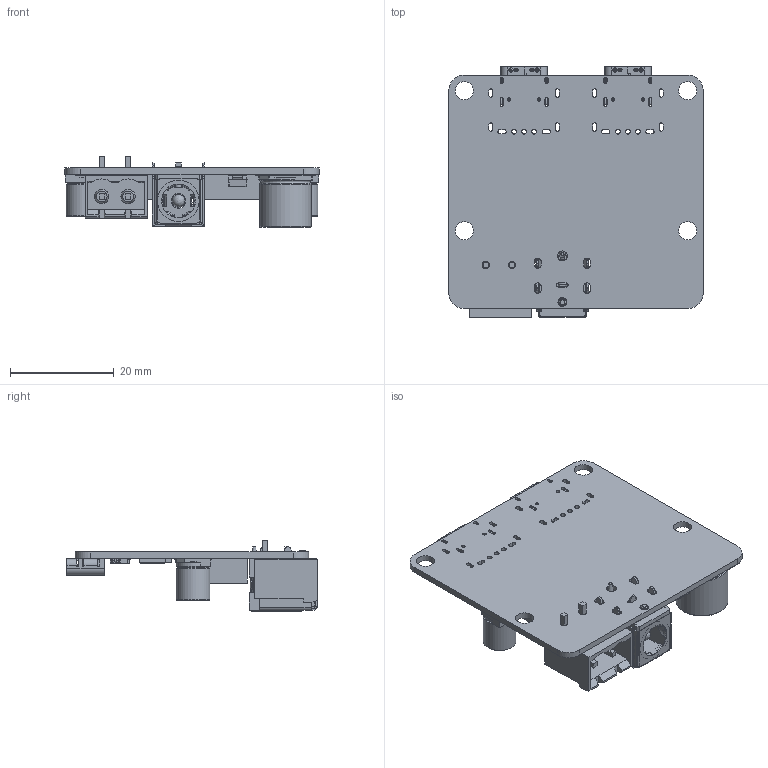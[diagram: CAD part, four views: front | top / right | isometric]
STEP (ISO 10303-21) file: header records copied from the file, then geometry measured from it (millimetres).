
FILE_DESCRIPTION(/* description */ (''),/* implementation_level */ '2;1');
FILE_NAME(/* name */ 'CG-CCJPD30x2_Model3D_JWV1.step',/* time_stamp */ '2023-03-27T13:45:28-04:00',/* author */ (''),/* organization */ (''),/* preprocessor_version */ 'ST-DEVELOPER v19.2',/* originating_system */ 'Autodesk Translation Framework v11.17.0.187',/* authorisation */ '');
FILE_SCHEMA (('AUTOMOTIVE_DESIGN { 1 0 10303 214 3 1 1 }'));
Products named in the file (68): (Unsaved); Board; Open CASCADE STEP translator 6.8 1.1.1; Component; Component (82); Component (15); Component (16); User_Library-SC70-6_(1); Component (9); User_Library-ALU-G; User_Library-ALU-G_Pins_1; User_Library-ALU-G_Fuss_1; User_Library-ALU-G_K_X_F6rper_1; User_Library-ALU-G_Beschriftung_1; USB-C Connector 2; Component (44); Component (45); Component (46); Component (47); User_Library-TDFN-8-EP_3x3mm; User_Library-TDFN-8-EP_3x3mm (1); User_Library-TDFN-8-EP_3x3mm (2); User_Library-TDFN-8-EP_3x3mm (3); User_Library-TDFN-8-EP_3x3mm (4); User_Library-TDFN-8-EP_3x3mm (5); User_Library-TDFN-8-EP_3x3mm (6); Component (49); Component (50); Component (51); 6428412240; Extruded; Component (53); Component (54); User_Library-CC0607; USB-A Connector 2; USB-A Connector 1; USB-C Connector 1; User_Library-USB_-_C_m; Component (58); Component (59)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
Assembly tree (100 placements, depth 4):
  (Unsaved)
    Board
      Open CASCADE STEP translator 6.8 1.1.1
    Component
      User_Library-SC70-6_(1)
    Component (82)
      User_Library-SC70-6_(1)
    Component (15)
      User_Library-SC70-6_(1)
    Component (16)
      User_Library-SC70-6_(1)
    Component (9)
      User_Library-ALU-G
        User_Library-ALU-G_Pins_1
        User_Library-ALU-G_Fuss_1
        User_Library-ALU-G_K_X_F6rper_1
        User_Library-ALU-G_Beschriftung_1
    USB-C Connector 2
      User_Library-USB_-_C_m
    Component (44)
      User_Library-TDFN-8-EP_3x3mm
      User_Library-TDFN-8-EP_3x3mm (1)
      User_Library-TDFN-8-EP_3x3mm (2)
      User_Library-TDFN-8-EP_3x3mm (3)
      User_Library-TDFN-8-EP_3x3mm (4)
      User_Library-TDFN-8-EP_3x3mm (5)
      User_Library-TDFN-8-EP_3x3mm (6)
    Component (45)
      User_Library-TDFN-8-EP_3x3mm
      User_Library-TDFN-8-EP_3x3mm (1)
      User_Library-TDFN-8-EP_3x3mm (2)
      User_Library-TDFN-8-EP_3x3mm (3)
      User_Library-TDFN-8-EP_3x3mm (4)
      User_Library-TDFN-8-EP_3x3mm (5)
      User_Library-TDFN-8-EP_3x3mm (6)
    Component (46)
      User_Library-TDFN-8-EP_3x3mm
      User_Library-TDFN-8-EP_3x3mm (1)
      User_Library-TDFN-8-EP_3x3mm (2)
      User_Library-TDFN-8-EP_3x3mm (3)
      User_Library-TDFN-8-EP_3x3mm (4)
      User_Library-TDFN-8-EP_3x3mm (5)
      User_Library-TDFN-8-EP_3x3mm (6)
    Component (47)
      User_Library-TDFN-8-EP_3x3mm
      User_Library-TDFN-8-EP_3x3mm (1)
      User_Library-TDFN-8-EP_3x3mm (2)
      User_Library-TDFN-8-EP_3x3mm (3)
      User_Library-TDFN-8-EP_3x3mm (4)
      User_Library-TDFN-8-EP_3x3mm (5)
      User_Library-TDFN-8-EP_3x3mm (6)
    Component (49)
      WL-SMCW_0603_LED
        base  x2
    Component (50)
      6428412240
        Extruded
    Component (51)
      6428412240
        Extruded
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Bounding box: 49 x 48.23 x 13.55 mm (x, y, z)
Volume: 7099.2 mm3; surface area: 11944 mm2
Topology: 68 solids, 82 shells, 4608 faces, 12595 edges, 8137 vertices
Faces by surface type: plane 3190, cylinder 976, bspline 192, torus 103, cone 82, sphere 65
Full cylindrical faces by diameter (mm): 0.122 x4, 0.34 x8, 0.455 x2, 0.5 x4, 0.65 x4, 0.692 x4, 0.914 x6, 1 x8, 1.2 x2, 1.35 x1, 1.4 x2, 1.7 x1, 1.9 x1, 2 x1, 2.032 x3, 2.4 x1, 2.8 x2, 2.85 x2, 3.5 x4, 5.7 x2, 6.3 x4, 6.4 x2, 10 x2
Entity records: 91087 total; most frequent: CARTESIAN_POINT 19199, ORIENTED_EDGE 14598, DIRECTION 14050, EDGE_CURVE 7299, LINE 5436, VECTOR 5436, VERTEX_POINT 4736, AXIS2_PLACEMENT_3D 4307
